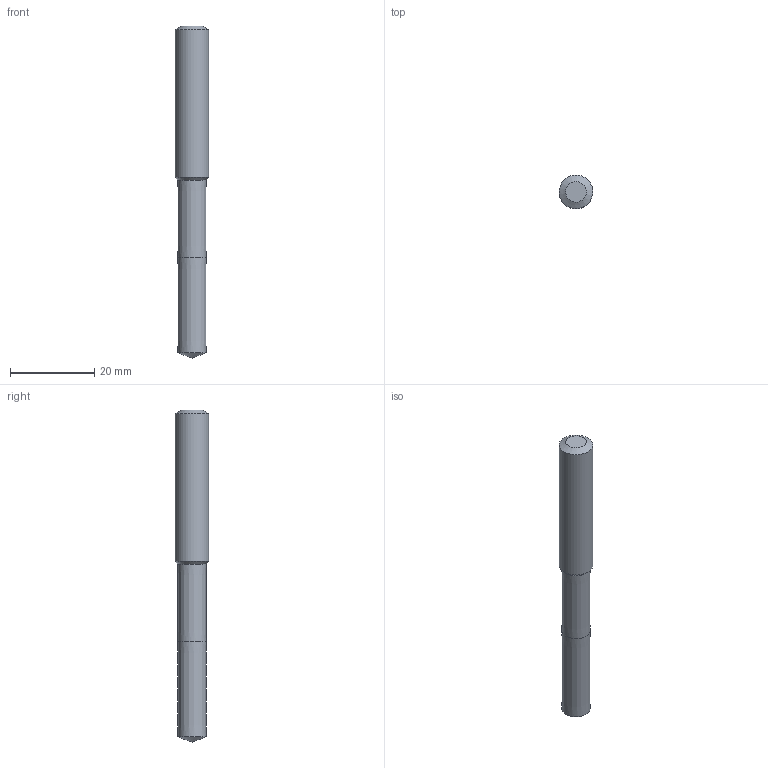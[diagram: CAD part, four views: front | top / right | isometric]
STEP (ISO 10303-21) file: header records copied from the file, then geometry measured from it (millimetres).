
FILE_DESCRIPTION(/* description */ (''),/* implementation_level */ '2;1');
FILE_NAME(/* name */ 'PLM~170628061937~TIX~0160~7287734~MOD~TM01_00~DC150-03-06.700D1-WJ30RE_ISO~FR.STP',/* time_stamp */ '2017-06-28T07:35:41+02:00',/* author */ ('VR - J.Pauli'),/* organization */ ('Walter AG'),/* preprocessor_version */ 'ST-DEVELOPER v15',/* originating_system */ 'SIEMENS PLM Software NX 8.5',/* authorisation */ '');
FILE_SCHEMA (('AUTOMOTIVE_DESIGN { 1 0 10303 214 3 1 1 1 }'));
Length unit declared in the file: millimetre
Products named in the file (1): PLM~170628061937~TIX~0160~7287734~MOD~TM01_00~DC150-03-06.700D1-WJ30R
E_ISO~FR
Bounding box: 7.99 x 7.99 x 79 mm (x, y, z)
Volume: 3285.9 mm3; surface area: 1932.2 mm2
Topology: 2 solids, 2 shells, 9 faces, 18 edges, 14 vertices
Faces by surface type: cone 5, plane 3, cylinder 1
Full cylindrical faces by diameter (mm): 8 x1
Entity records: 247 total; most frequent: DIRECTION 42, CARTESIAN_POINT 30, AXIS2_PLACEMENT_3D 20, EDGE_LOOP 14, ORIENTED_EDGE 14, FACE_BOUND 12, ADVANCED_FACE 9, VERTEX_POINT 8
